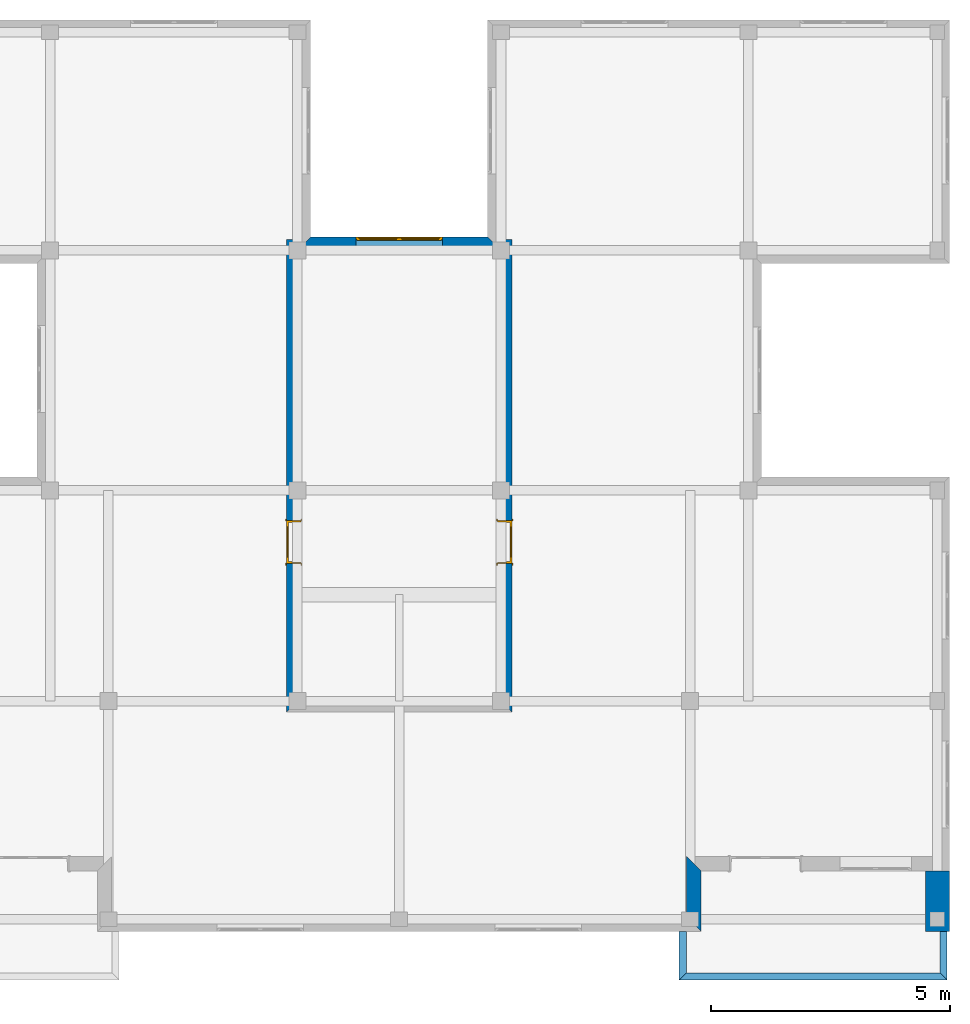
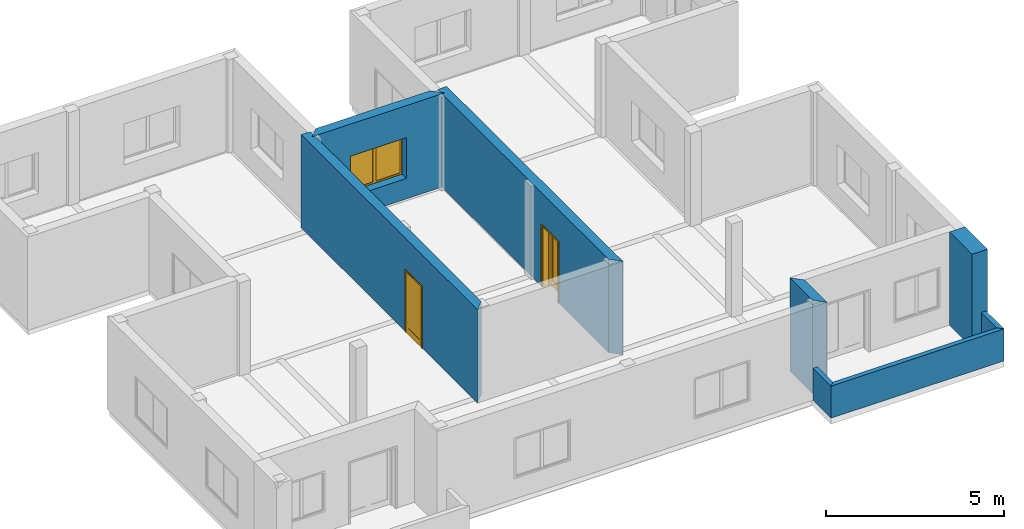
# One storey, part 4 of 6: 8 walls, 2 doors, 1 window, 3 openings.
"""IFC2X3 building model written with IfcOpenShell, lengths in millimetres."""

from ifc_helpers import new_model, entity, si_unit, converted_unit, direction, frame, origin_with_axes, origin_2d_with_axis, place, context, subcontext, project, spatial, polyline, rectangle, outline, extrude, faceted_brep, source, transform, mapped, material, layer, layer_set, layer_usage, type_object, element, fill, save


model = new_model("IFC2X3")

# Units and contexts
model_context = context("Model", 3, precision=1e-05, world=origin_with_axes(), true_north=direction((0.0, 1.0)))
body_context = subcontext(model_context, "Body", "Model", "MODEL_VIEW")
ifc_project = project(units=[si_unit("LENGTHUNIT", "METRE", prefix="MILLI"), si_unit("AREAUNIT", "SQUARE_METRE"), si_unit("VOLUMEUNIT", "CUBIC_METRE"), converted_unit("PLANEANGLEUNIT", "DEGREE", entity("IfcPlaneAngleMeasure", 0.017453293), si_unit("PLANEANGLEUNIT", "RADIAN"), dimensions=[0, 0, 0, 0, 0, 0, 0]), si_unit("SOLIDANGLEUNIT", "STERADIAN"), si_unit("MASSUNIT", "GRAM"), si_unit("TIMEUNIT", "SECOND"), si_unit("THERMODYNAMICTEMPERATUREUNIT", "DEGREE_CELSIUS"), si_unit("LUMINOUSINTENSITYUNIT", "LUMEN")], contexts=[model_context])

# Site, building, storey
site_placement = place(None, origin_with_axes())
site = spatial("IfcSite", under=ifc_project, at=site_placement, Name="Sitio", CompositionType="ELEMENT")
building_placement = place(site_placement, origin_with_axes())
building = spatial("IfcBuilding", under=site, at=building_placement, Name="Ejemplo_StruBIM", CompositionType="ELEMENT")
storey_placement = place(building_placement, frame((0.0, 0.0, 6400.8), z_axis=(0.0, 0.0, 1.0), x_axis=(1.0, 0.0, 0.0)))
storey = spatial("IfcBuildingStorey", under=building, at=storey_placement, Name="Second floor", CompositionType="ELEMENT", Elevation=6400.8)

# Wall, opening, door
ifc_material_1 = material(Name="Bloque mampostería")
ifc_layer_1 = layer(ifc_material_1, 300.0, ventilated="UNKNOWN")
ifc_layer_set_1 = layer_set([ifc_layer_1], Name="Bloque mampostería 300")
ifc_layer_usage_1 = layer_usage(ifc_layer_set_1, "AXIS2", "NEGATIVE", 0.0)
wall_type_1 = type_object("IfcWallType", Name="Bloque mampostería 11 3/4\"", PredefinedType="NOTDEFINED")
wall_1_placement = place(storey_placement, frame((8915.4, 4343.4, 0.0), z_axis=(0.0, 0.0, 1.0), x_axis=(0.0, 1.0, 0.0)))
wall_1 = element("IfcWallStandardCase", 1, at=wall_1_placement, inside=storey, type_object=wall_type_1, material=ifc_layer_usage_1, Name="Muro-009", context=body_context, shape_type="SweptSolid", body=[
    extrude(outline(polyline([(300.0, -300.0), (9906.0, -300.0), (9906.0, 0.0), (0.0, 0.0), (300.0, -300.0)])), origin_with_axes(), (0.0, 0.0, 1.0), 3200.4),
])
opening_1_placement = place(wall_1_placement, frame((3563.2, 0.0, 0.0), z_axis=(0.0, 0.0, 1.0), x_axis=(1.0, 0.0, 0.0)))
opening_1 = element("IfcOpeningElement", 2, at=opening_1_placement, cuts=wall_1, Name="P01", context=body_context, shape_type="SweptSolid", body=[
    extrude(rectangle(XDim=900.0, YDim=2100.0, at=origin_2d_with_axis()), frame((0.0, -300.0, 1050.0), z_axis=(0.0, 1.0, 0.0), x_axis=(1.0, 0.0, 0.0)), (0.0, 0.0, 1.0), 300.0),
    extrude(rectangle(XDim=974.0, YDim=2137.0, at=origin_2d_with_axis()), frame((0.0, -300.0, 1068.5), z_axis=(0.0, 1.0, 0.0), x_axis=(1.0, 0.0, 0.0)), (0.0, 0.0, -1.0), 300.0),
    extrude(rectangle(XDim=974.0, YDim=2137.0, at=origin_2d_with_axis()), frame((0.0, 0.0, 1068.5), z_axis=(0.0, -1.0, 0.0), x_axis=(1.0, 0.0, 0.0)), (0.0, 0.0, -1.0), 300.0),
])
ifc_material_2 = material(Name="Fondo")
door_style_1 = type_object("IfcDoorStyle", Name="Puerta 16", ConstructionType="NOTDEFINED", OperationType="SINGLE_SWING_RIGHT", ParameterTakesPrecedence=False, Sizeable=False)
shared_shape_1 = source(origin_with_axes(), body_context, "Body", "Brep", [
    faceted_brep([(-450.0, -115.0, 0.0), (-425.0, -115.0, 0.0), (-425.0, -300.0, 0.0), (-450.0, -300.0, 0.0), (-450.0, -115.0, 2100.0), (-425.0, -115.0, 2075.0), (-425.0, -300.0, 2075.0), (-450.0, -300.0, 2100.0)], [[[0, 1, 2, 3]], [[0, 4, 5, 1]], [[1, 5, 6, 2]], [[3, 2, 6, 7]], [[4, 0, 3, 7]], [[5, 4, 7, 6]]]),
    faceted_brep([(450.0, -115.0, 2100.0), (425.0, -115.0, 2075.0), (425.0, -300.0, 2075.0), (450.0, -300.0, 2100.0), (450.0, -115.0, 0.0), (425.0, -115.0, 0.0), (425.0, -300.0, 0.0), (450.0, -300.0, 0.0)], [[[0, 1, 2, 3]], [[0, 4, 5, 1]], [[1, 5, 6, 2]], [[3, 2, 6, 7]], [[4, 0, 3, 7]], [[5, 4, 7, 6]]]),
    faceted_brep([(-425.0, -115.0, 2075.0), (425.0, -115.0, 2075.0), (425.0, -300.0, 2075.0), (-425.0, -300.0, 2075.0), (-450.0, -115.0, 2100.0), (450.0, -115.0, 2100.0), (450.0, -300.0, 2100.0), (-450.0, -300.0, 2100.0)], [[[0, 1, 2, 3]], [[0, 4, 5, 1]], [[1, 5, 6, 2]], [[3, 2, 6, 7]], [[4, 0, 3, 7]], [[5, 4, 7, 6]]]),
    faceted_brep([(-487.0, -319.0, 0.0), (-487.0, -300.0, 0.0), (-437.0, -300.0, 0.0), (-437.0, -319.0, 0.0), (-487.0, -319.0, 2137.0), (-487.0, -300.0, 2137.0), (-437.0, -300.0, 2087.0), (-437.0, -319.0, 2087.0)], [[[0, 1, 2, 3]], [[4, 5, 1, 0]], [[1, 5, 6, 2]], [[3, 2, 6, 7]], [[0, 3, 7, 4]], [[7, 6, 5, 4]]]),
    faceted_brep([(487.0, -319.0, 2137.0), (487.0, -300.0, 2137.0), (437.0, -300.0, 2087.0), (437.0, -319.0, 2087.0), (487.0, -319.0, 0.0), (487.0, -300.0, 0.0), (437.0, -300.0, 0.0), (437.0, -319.0, 0.0)], [[[0, 1, 2, 3]], [[4, 5, 1, 0]], [[1, 5, 6, 2]], [[3, 2, 6, 7]], [[0, 3, 7, 4]], [[7, 6, 5, 4]]]),
    faceted_brep([(-487.0, -319.0, 2137.0), (-487.0, -300.0, 2137.0), (-437.0, -300.0, 2087.0), (-437.0, -319.0, 2087.0), (487.0, -319.0, 2137.0), (487.0, -300.0, 2137.0), (437.0, -300.0, 2087.0), (437.0, -319.0, 2087.0)], [[[0, 1, 2, 3]], [[4, 5, 1, 0]], [[1, 5, 6, 2]], [[3, 2, 6, 7]], [[0, 3, 7, 4]], [[7, 6, 5, 4]]]),
    faceted_brep([(-487.0, 19.0, 0.0), (-437.0, 19.0, 0.0), (-437.0, 0.0, 0.0), (-487.0, 0.0, 0.0), (-487.0, 19.0, 2137.0), (-437.0, 19.0, 2087.0), (-437.0, 0.0, 2087.0), (-487.0, 0.0, 2137.0)], [[[0, 1, 2, 3]], [[0, 4, 5, 1]], [[1, 5, 6, 2]], [[3, 2, 6, 7]], [[4, 0, 3, 7]], [[5, 4, 7, 6]]]),
    faceted_brep([(487.0, 19.0, 2137.0), (437.0, 19.0, 2087.0), (437.0, 0.0, 2087.0), (487.0, 0.0, 2137.0), (487.0, 19.0, 0.0), (437.0, 19.0, 0.0), (437.0, 0.0, 0.0), (487.0, 0.0, 0.0)], [[[0, 1, 2, 3]], [[0, 4, 5, 1]], [[1, 5, 6, 2]], [[3, 2, 6, 7]], [[4, 0, 3, 7]], [[5, 4, 7, 6]]]),
    faceted_brep([(-487.0, 19.0, 2137.0), (-437.0, 19.0, 2087.0), (-437.0, 0.0, 2087.0), (-487.0, 0.0, 2137.0), (487.0, 19.0, 2137.0), (437.0, 19.0, 2087.0), (437.0, 0.0, 2087.0), (487.0, 0.0, 2137.0)], [[[0, 1, 2, 3]], [[0, 4, 5, 1]], [[1, 5, 6, 2]], [[3, 2, 6, 7]], [[4, 0, 3, 7]], [[5, 4, 7, 6]]]),
    faceted_brep([(-410.0, -40.0, 0.0), (-410.0, -40.0, 2060.0), (-410.0, -115.0, 2060.0), (-410.0, -115.0, 0.0), (-422.0, -40.0, 2060.0), (-422.0, -40.0, 0.0), (-422.0, 2.2351741e-07, 2060.0), (-450.0, 2.2351741e-07, 2060.0), (-450.0, -115.0, 2060.0), (-450.0, -115.0, 0.0), (-450.0, 2.2351741e-07, -3.8951635e-07), (-422.0, 2.2351741e-07, 0.0)], [[[0, 1, 2, 3]], [[4, 1, 0, 5]], [[4, 6, 7, 8, 2, 1]], [[8, 9, 3, 2]], [[5, 0, 3, 9, 10, 11]], [[6, 4, 5, 11]], [[6, 11, 10, 7]], [[9, 8, 7, 10]]]),
    faceted_brep([(422.0, -40.0, 2060.0), (410.0, -40.0, 2060.0), (410.0, -115.0, 2060.0), (450.0, -115.0, 2060.0), (450.0, 2.2351741e-07, 2060.0), (422.0, 2.2351741e-07, 2060.0), (422.0, -40.0, 0.0), (410.0, -40.0, 0.0), (410.0, -115.0, 0.0), (450.0, -115.0, 0.0), (450.0, 2.2351741e-07, -3.8951635e-07), (422.0, 2.2351741e-07, 0.0)], [[[0, 1, 2, 3, 4, 5]], [[1, 0, 6, 7]], [[1, 7, 8, 2]], [[8, 9, 3, 2]], [[3, 9, 10, 4]], [[11, 5, 4, 10]], [[0, 5, 11, 6]], [[6, 11, 10, 9, 8, 7]]]),
    faceted_brep([(-422.0, 2.2351741e-07, 2072.0), (-422.0, 2.2351741e-07, 2060.0), (-450.0, 2.2351741e-07, 2060.0), (-450.0, 2.2351741e-07, 2100.0), (450.0, 2.2351741e-07, 2100.0), (450.0, 2.2351741e-07, 2060.0), (422.0, 2.2351741e-07, 2060.0), (422.0, 2.2351741e-07, 2072.0), (-422.0, -40.0, 2072.0), (-422.0, -40.0, 2060.0), (-410.0, -40.0, 2060.0), (-410.0, -115.0, 2060.0), (-450.0, -115.0, 2060.0), (-450.0, -115.0, 2100.0), (450.0, -115.0, 2100.0), (450.0, -115.0, 2060.0), (422.0, -40.0, 2060.0), (410.0, -115.0, 2060.0), (410.0, -40.0, 2060.0), (422.0, -40.0, 2072.0)], [[[0, 1, 2, 3, 4, 5, 6, 7]], [[1, 0, 8, 9]], [[9, 10, 11, 12, 2, 1]], [[12, 13, 3, 2]], [[13, 14, 4, 3]], [[14, 15, 5, 4]], [[16, 6, 5, 15, 17, 18]], [[7, 6, 16, 19]], [[0, 7, 19, 8]], [[16, 18, 10, 9, 8, 19]], [[10, 18, 17, 11]], [[14, 13, 12, 11, 17, 15]]]),
    faceted_brep([(422.0, 0.0, 200.0), (422.0, -40.0, 200.0), (322.0, -40.0, 200.0), (322.0, 0.0, 200.0), (422.0, 0.0, 1972.0), (422.0, -40.0, 1972.0), (322.0, -40.0, 1972.0), (322.0, 0.0, 1972.0)], [[[0, 1, 2, 3]], [[4, 5, 1, 0]], [[1, 5, 6, 2]], [[3, 2, 6, 7]], [[0, 3, 7, 4]], [[7, 6, 5, 4]]]),
    faceted_brep([(-422.0, 0.0, 200.0), (-422.0, -40.0, 200.0), (-422.0, -40.0, 1972.0), (-422.0, 0.0, 1972.0), (-322.0, 0.0, 200.0), (-322.0, -40.0, 200.0), (-322.0, -40.0, 1972.0), (-322.0, 0.0, 1972.0)], [[[0, 1, 2, 3]], [[4, 5, 1, 0]], [[1, 5, 6, 2]], [[3, 2, 6, 7]], [[0, 3, 7, 4]], [[7, 6, 5, 4]]]),
    faceted_brep([(422.0, 0.0, 0.0), (422.0, -40.0, 0.0), (-422.0, -40.0, 0.0), (-422.0, 0.0, 0.0), (422.0, 0.0, 200.0), (422.0, -40.0, 200.0), (322.0, -40.0, 200.0), (-322.0, -40.0, 200.0), (-422.0, -40.0, 200.0), (-422.0, 0.0, 200.0), (-322.0, 0.0, 200.0), (322.0, 0.0, 200.0)], [[[0, 1, 2, 3]], [[4, 5, 1, 0]], [[1, 5, 6, 7, 8, 2]], [[3, 2, 8, 9]], [[0, 3, 9, 10, 11, 4]], [[11, 6, 5, 4]], [[10, 7, 6, 11]], [[9, 8, 7, 10]]]),
    faceted_brep([(422.0, 0.0, 2072.0), (422.0, -40.0, 2072.0), (422.0, -40.0, 1972.0), (422.0, 0.0, 1972.0), (-422.0, 0.0, 2072.0), (-422.0, -40.0, 2072.0), (-422.0, -40.0, 1972.0), (-322.0, -40.0, 1972.0), (322.0, -40.0, 1972.0), (322.0, 0.0, 1972.0), (-322.0, 0.0, 1972.0), (-422.0, 0.0, 1972.0)], [[[0, 1, 2, 3]], [[4, 5, 1, 0]], [[1, 5, 6, 7, 8, 2]], [[3, 2, 8, 9]], [[0, 3, 9, 10, 11, 4]], [[11, 6, 5, 4]], [[10, 7, 6, 11]], [[9, 8, 7, 10]]]),
    faceted_brep([(322.0, -14.0, 200.0), (322.0, -26.0, 200.0), (-322.0, -26.0, 200.0), (-322.0, -14.0, 200.0), (322.0, -14.0, 1972.0), (322.0, -26.0, 1972.0), (-322.0, -26.0, 1972.0), (-322.0, -14.0, 1972.0)], [[[0, 1, 2, 3]], [[4, 5, 1, 0]], [[1, 5, 6, 2]], [[3, 2, 6, 7]], [[0, 3, 7, 4]], [[7, 6, 5, 4]]]),
])
door_1_placement = place(opening_1_placement, frame((-450.0, 0.0, 0.0), z_axis=(0.0, 0.0, 1.0), x_axis=(1.0, 0.0, 0.0)))
door_1 = element("IfcDoor", 3, at=door_1_placement, inside=storey, type_object=door_style_1, material=ifc_material_2, Name="P01", OverallHeight=2100.0, OverallWidth=900.0, context=body_context, shape_type="MappedRepresentation", body=[
    mapped(shared_shape_1, transform((450.0, 0.0, 0.0))),
])
fill(opening_1, door_1)

ifc_layer_usage_2 = layer_usage(ifc_layer_set_1, "AXIS2", "POSITIVE", 0.0)
wall_2_placement = place(storey_placement, frame((13639.8, 4343.4, 0.0), z_axis=(0.0, 0.0, 1.0), x_axis=(0.0, 1.0, 0.0)))
wall_2 = element("IfcWallStandardCase", 4, at=wall_2_placement, inside=storey, type_object=wall_type_1, material=ifc_layer_usage_2, Name="Muro-009", context=body_context, shape_type="SweptSolid", body=[
    extrude(outline(polyline([(0.0, 0.0), (9906.0, 0.0), (9906.0, 300.0), (300.0, 300.0), (0.0, 0.0)])), origin_with_axes(), (0.0, 0.0, 1.0), 3200.4),
])
opening_2_placement = place(wall_2_placement, frame((3563.2, 0.0, 0.0), z_axis=(0.0, 0.0, 1.0), x_axis=(1.0, 0.0, 0.0)))
opening_2 = element("IfcOpeningElement", 5, at=opening_2_placement, cuts=wall_2, Name="P02", context=body_context, shape_type="SweptSolid", body=[
    extrude(rectangle(XDim=900.0, YDim=2100.0, at=origin_2d_with_axis()), frame((0.0, 300.0, 1050.0), z_axis=(0.0, 1.0, 0.0), x_axis=(1.0, 0.0, 0.0)), (0.0, 0.0, -1.0), 300.0),
    extrude(rectangle(XDim=974.0, YDim=2137.0, at=origin_2d_with_axis()), frame((0.0, 300.0, 1068.5), z_axis=(0.0, 1.0, 0.0), x_axis=(1.0, 0.0, 0.0)), (0.0, 0.0, 1.0), 300.0),
    extrude(rectangle(XDim=974.0, YDim=2137.0, at=origin_2d_with_axis()), frame((0.0, 0.0, 1068.5), z_axis=(0.0, -1.0, 0.0), x_axis=(1.0, 0.0, 0.0)), (0.0, 0.0, 1.0), 300.0),
])
door_style_2 = type_object("IfcDoorStyle", Name="Puerta 16", ConstructionType="NOTDEFINED", OperationType="SINGLE_SWING_LEFT", ParameterTakesPrecedence=False, Sizeable=False)
shared_shape_2 = source(origin_with_axes(), body_context, "Body", "Brep", [
    faceted_brep([(450.0, -115.0, 0.0), (450.0, -300.0, 0.0), (425.0, -300.0, 0.0), (425.0, -115.0, 0.0), (450.0, -115.0, 2100.0), (450.0, -300.0, 2100.0), (425.0, -300.0, 2075.0), (425.0, -115.0, 2075.0)], [[[0, 1, 2, 3]], [[4, 5, 1, 0]], [[1, 5, 6, 2]], [[3, 2, 6, 7]], [[0, 3, 7, 4]], [[7, 6, 5, 4]]]),
    faceted_brep([(-450.0, -115.0, 2100.0), (-450.0, -300.0, 2100.0), (-425.0, -300.0, 2075.0), (-425.0, -115.0, 2075.0), (-450.0, -115.0, 0.0), (-450.0, -300.0, 0.0), (-425.0, -300.0, 0.0), (-425.0, -115.0, 0.0)], [[[0, 1, 2, 3]], [[4, 5, 1, 0]], [[1, 5, 6, 2]], [[3, 2, 6, 7]], [[0, 3, 7, 4]], [[7, 6, 5, 4]]]),
    faceted_brep([(425.0, -115.0, 2075.0), (425.0, -300.0, 2075.0), (-425.0, -300.0, 2075.0), (-425.0, -115.0, 2075.0), (450.0, -115.0, 2100.0), (450.0, -300.0, 2100.0), (-450.0, -300.0, 2100.0), (-450.0, -115.0, 2100.0)], [[[0, 1, 2, 3]], [[4, 5, 1, 0]], [[1, 5, 6, 2]], [[3, 2, 6, 7]], [[0, 3, 7, 4]], [[7, 6, 5, 4]]]),
    faceted_brep([(487.0, -319.0, 0.0), (437.0, -319.0, 0.0), (437.0, -300.0, 0.0), (487.0, -300.0, 0.0), (487.0, -319.0, 2137.0), (437.0, -319.0, 2087.0), (437.0, -300.0, 2087.0), (487.0, -300.0, 2137.0)], [[[0, 1, 2, 3]], [[0, 4, 5, 1]], [[1, 5, 6, 2]], [[3, 2, 6, 7]], [[4, 0, 3, 7]], [[5, 4, 7, 6]]]),
    faceted_brep([(-487.0, -319.0, 2137.0), (-437.0, -319.0, 2087.0), (-437.0, -300.0, 2087.0), (-487.0, -300.0, 2137.0), (-487.0, -319.0, 0.0), (-437.0, -319.0, 0.0), (-437.0, -300.0, 0.0), (-487.0, -300.0, 0.0)], [[[0, 1, 2, 3]], [[0, 4, 5, 1]], [[1, 5, 6, 2]], [[3, 2, 6, 7]], [[4, 0, 3, 7]], [[5, 4, 7, 6]]]),
    faceted_brep([(487.0, -319.0, 2137.0), (437.0, -319.0, 2087.0), (437.0, -300.0, 2087.0), (487.0, -300.0, 2137.0), (-487.0, -319.0, 2137.0), (-437.0, -319.0, 2087.0), (-437.0, -300.0, 2087.0), (-487.0, -300.0, 2137.0)], [[[0, 1, 2, 3]], [[0, 4, 5, 1]], [[1, 5, 6, 2]], [[3, 2, 6, 7]], [[4, 0, 3, 7]], [[5, 4, 7, 6]]]),
    faceted_brep([(487.0, 19.0, 0.0), (487.0, 0.0, 0.0), (437.0, 0.0, 0.0), (437.0, 19.0, 0.0), (487.0, 19.0, 2137.0), (487.0, 0.0, 2137.0), (437.0, 0.0, 2087.0), (437.0, 19.0, 2087.0)], [[[0, 1, 2, 3]], [[4, 5, 1, 0]], [[1, 5, 6, 2]], [[3, 2, 6, 7]], [[0, 3, 7, 4]], [[7, 6, 5, 4]]]),
    faceted_brep([(-487.0, 19.0, 2137.0), (-487.0, 0.0, 2137.0), (-437.0, 0.0, 2087.0), (-437.0, 19.0, 2087.0), (-487.0, 19.0, 0.0), (-487.0, 0.0, 0.0), (-437.0, 0.0, 0.0), (-437.0, 19.0, 0.0)], [[[0, 1, 2, 3]], [[4, 5, 1, 0]], [[1, 5, 6, 2]], [[3, 2, 6, 7]], [[0, 3, 7, 4]], [[7, 6, 5, 4]]]),
    faceted_brep([(487.0, 19.0, 2137.0), (487.0, 0.0, 2137.0), (437.0, 0.0, 2087.0), (437.0, 19.0, 2087.0), (-487.0, 19.0, 2137.0), (-487.0, 0.0, 2137.0), (-437.0, 0.0, 2087.0), (-437.0, 19.0, 2087.0)], [[[0, 1, 2, 3]], [[4, 5, 1, 0]], [[1, 5, 6, 2]], [[3, 2, 6, 7]], [[0, 3, 7, 4]], [[7, 6, 5, 4]]]),
    faceted_brep([(410.0, -40.0, 0.0), (410.0, -115.0, 0.0), (410.0, -115.0, 2060.0), (410.0, -40.0, 2060.0), (422.0, -40.0, 0.0), (422.0, 2.2351741e-07, 0.0), (450.0, 2.2351741e-07, -3.8951635e-07), (450.0, -115.0, 0.0), (450.0, -115.0, 2060.0), (422.0, -40.0, 2060.0), (450.0, 2.2351741e-07, 2060.0), (422.0, 2.2351741e-07, 2060.0)], [[[0, 1, 2, 3]], [[4, 5, 6, 7, 1, 0]], [[8, 2, 1, 7]], [[9, 3, 2, 8, 10, 11]], [[9, 4, 0, 3]], [[11, 5, 4, 9]], [[11, 10, 6, 5]], [[7, 6, 10, 8]]]),
    faceted_brep([(-422.0, -40.0, 2060.0), (-422.0, 2.2351741e-07, 2060.0), (-450.0, 2.2351741e-07, 2060.0), (-450.0, -115.0, 2060.0), (-410.0, -115.0, 2060.0), (-410.0, -40.0, 2060.0), (-422.0, -40.0, 0.0), (-422.0, 2.2351741e-07, 0.0), (-450.0, 2.2351741e-07, -3.8951635e-07), (-450.0, -115.0, 0.0), (-410.0, -115.0, 0.0), (-410.0, -40.0, 0.0)], [[[0, 1, 2, 3, 4, 5]], [[0, 6, 7, 1]], [[7, 8, 2, 1]], [[3, 2, 8, 9]], [[10, 4, 3, 9]], [[5, 4, 10, 11]], [[5, 11, 6, 0]], [[6, 11, 10, 9, 8, 7]]]),
    faceted_brep([(422.0, 2.2351741e-07, 2072.0), (-422.0, 2.2351741e-07, 2072.0), (-422.0, 2.2351741e-07, 2060.0), (-450.0, 2.2351741e-07, 2060.0), (-450.0, 2.2351741e-07, 2100.0), (450.0, 2.2351741e-07, 2100.0), (450.0, 2.2351741e-07, 2060.0), (422.0, 2.2351741e-07, 2060.0), (422.0, -40.0, 2072.0), (-422.0, -40.0, 2072.0), (-422.0, -40.0, 2060.0), (-410.0, -40.0, 2060.0), (-410.0, -115.0, 2060.0), (-450.0, -115.0, 2060.0), (-450.0, -115.0, 2100.0), (450.0, -115.0, 2100.0), (450.0, -115.0, 2060.0), (422.0, -40.0, 2060.0), (410.0, -115.0, 2060.0), (410.0, -40.0, 2060.0)], [[[0, 1, 2, 3, 4, 5, 6, 7]], [[0, 8, 9, 1]], [[1, 9, 10, 2]], [[10, 11, 12, 13, 3, 2]], [[14, 4, 3, 13]], [[15, 5, 4, 14]], [[16, 6, 5, 15]], [[17, 7, 6, 16, 18, 19]], [[7, 17, 8, 0]], [[10, 9, 8, 17, 19, 11]], [[19, 18, 12, 11]], [[14, 13, 12, 18, 16, 15]]]),
    faceted_brep([(-422.0, 0.0, 200.0), (-322.0, 0.0, 200.0), (-322.0, -40.0, 200.0), (-422.0, -40.0, 200.0), (-422.0, 0.0, 1972.0), (-322.0, 0.0, 1972.0), (-322.0, -40.0, 1972.0), (-422.0, -40.0, 1972.0)], [[[0, 1, 2, 3]], [[0, 4, 5, 1]], [[1, 5, 6, 2]], [[3, 2, 6, 7]], [[4, 0, 3, 7]], [[5, 4, 7, 6]]]),
    faceted_brep([(422.0, 0.0, 200.0), (422.0, 0.0, 1972.0), (422.0, -40.0, 1972.0), (422.0, -40.0, 200.0), (322.0, 0.0, 200.0), (322.0, 0.0, 1972.0), (322.0, -40.0, 1972.0), (322.0, -40.0, 200.0)], [[[0, 1, 2, 3]], [[0, 4, 5, 1]], [[1, 5, 6, 2]], [[3, 2, 6, 7]], [[4, 0, 3, 7]], [[5, 4, 7, 6]]]),
    faceted_brep([(-422.0, 0.0, 0.0), (422.0, 0.0, 0.0), (422.0, -40.0, 0.0), (-422.0, -40.0, 0.0), (-422.0, 0.0, 200.0), (-322.0, 0.0, 200.0), (322.0, 0.0, 200.0), (422.0, 0.0, 200.0), (422.0, -40.0, 200.0), (322.0, -40.0, 200.0), (-322.0, -40.0, 200.0), (-422.0, -40.0, 200.0)], [[[0, 1, 2, 3]], [[0, 4, 5, 6, 7, 1]], [[1, 7, 8, 2]], [[3, 2, 8, 9, 10, 11]], [[4, 0, 3, 11]], [[5, 4, 11, 10]], [[6, 5, 10, 9]], [[7, 6, 9, 8]]]),
    faceted_brep([(-422.0, 0.0, 2072.0), (-422.0, 0.0, 1972.0), (-422.0, -40.0, 1972.0), (-422.0, -40.0, 2072.0), (422.0, 0.0, 2072.0), (422.0, 0.0, 1972.0), (322.0, 0.0, 1972.0), (-322.0, 0.0, 1972.0), (-322.0, -40.0, 1972.0), (322.0, -40.0, 1972.0), (422.0, -40.0, 1972.0), (422.0, -40.0, 2072.0)], [[[0, 1, 2, 3]], [[0, 4, 5, 6, 7, 1]], [[1, 7, 8, 2]], [[3, 2, 8, 9, 10, 11]], [[4, 0, 3, 11]], [[5, 4, 11, 10]], [[6, 5, 10, 9]], [[7, 6, 9, 8]]]),
    faceted_brep([(-322.0, -14.0, 200.0), (322.0, -14.0, 200.0), (322.0, -26.0, 200.0), (-322.0, -26.0, 200.0), (-322.0, -14.0, 1972.0), (322.0, -14.0, 1972.0), (322.0, -26.0, 1972.0), (-322.0, -26.0, 1972.0)], [[[0, 1, 2, 3]], [[0, 4, 5, 1]], [[1, 5, 6, 2]], [[3, 2, 6, 7]], [[4, 0, 3, 7]], [[5, 4, 7, 6]]]),
])
door_2_placement = place(opening_2_placement, frame((450.0, 0.0, 0.0), z_axis=(0.0, 0.0, 1.0), x_axis=(-1.0, 0.0, 0.0)))
door_2 = element("IfcDoor", 6, at=door_2_placement, inside=storey, type_object=door_style_2, material=ifc_material_2, Name="P02", OverallHeight=2100.0, OverallWidth=900.0, context=body_context, shape_type="MappedRepresentation", body=[
    mapped(shared_shape_2, transform((450.0, 0.0, 0.0))),
])
fill(opening_2, door_2)

# Wall
ifc_layer_usage_3 = layer_usage(ifc_layer_set_1, "AXIS2", "POSITIVE", 0.0)
wall_3_placement = place(storey_placement, frame((17602.2, -254.0, 0.0), z_axis=(0.0, 0.0, 1.0), x_axis=(0.0, 1.0, 0.0)))
element("IfcWallStandardCase", 7, at=wall_3_placement, inside=storey, type_object=wall_type_1, material=ifc_layer_usage_3, Name="Muro-016", context=body_context, shape_type="SweptSolid", body=[
    extrude(outline(polyline([(0.0, 0.0), (1270.0, 0.0), (1570.0, 300.0), (300.0, 300.0), (0.0, 0.0)])), origin_with_axes(), (0.0, 0.0, 1.0), 3200.4),
])

# Wall, opening, window
ifc_layer_usage_4 = layer_usage(ifc_layer_set_1, "AXIS2", "POSITIVE", 0.0)
wall_4_placement = place(storey_placement, frame((13131.8, 14300.2, 0.0), z_axis=(0.0, 0.0, 1.0), x_axis=(-1.0, 0.0, 0.0)))
wall_4 = element("IfcWallStandardCase", 8, at=wall_4_placement, inside=storey, type_object=wall_type_1, material=ifc_layer_usage_4, Name="Muro-008", context=body_context, shape_type="SweptSolid", body=[
    extrude(outline(polyline([(0.0, 0.0), (3708.4, 0.0), (4008.4, 300.0), (-300.0, 300.0), (0.0, 0.0)])), origin_with_axes(), (0.0, 0.0, 1.0), 3200.4),
])
opening_3_placement = place(wall_4_placement, frame((1854.2, 0.0, 700.0), z_axis=(0.0, 0.0, 1.0), x_axis=(1.0, 0.0, 0.0)))
opening_3 = element("IfcOpeningElement", 9, at=opening_3_placement, cuts=wall_4, Name="V10", context=body_context, shape_type="SweptSolid", body=[
    extrude(rectangle(XDim=1820.0, YDim=1400.0, at=origin_2d_with_axis()), frame((0.0, 300.0, 700.0), z_axis=(0.0, -1.0, 0.0), x_axis=(1.0, 0.0, 0.0)), (0.0, 0.0, 1.0), 300.0),
])
window_style = type_object("IfcWindowStyle", Name="Ventana Doble Hoja 16", ConstructionType="NOTDEFINED", OperationType="DOUBLE_PANEL_HORIZONTAL", ParameterTakesPrecedence=False, Sizeable=False)
shared_shape_3 = source(origin_with_axes(), body_context, "Body", "Brep", [
    faceted_brep([(-885.0, -50.0, 1350.0), (-885.0, -25.0, 1350.0), (-860.0, -25.0, 1350.0), (-860.0, 0.0, 1350.0), (-910.0, 0.0, 1350.0), (-910.0, -50.0, 1350.0), (-885.0, -50.0, 50.0), (-885.0, -25.0, 50.0), (-860.0, -25.0, 50.0), (-860.0, 0.0, 50.0), (-910.0, 0.0, 50.0), (-910.0, -50.0, 50.0)], [[[0, 1, 2, 3, 4, 5]], [[1, 0, 6, 7]], [[8, 2, 1, 7]], [[2, 8, 9, 3]], [[4, 3, 9, 10]], [[5, 4, 10, 11]], [[6, 0, 5, 11]], [[7, 6, 11, 10, 9, 8]]]),
    faceted_brep([(860.0, -25.0, 1350.0), (885.0, -25.0, 1350.0), (885.0, -50.0, 1350.0), (910.0, -50.0, 1350.0), (910.0, 0.0, 1350.0), (860.0, 0.0, 1350.0), (860.0, -25.0, 50.0), (885.0, -25.0, 50.0), (885.0, -50.0, 50.0), (910.0, -50.0, 50.0), (910.0, 0.0, 50.0), (860.0, 0.0, 50.0)], [[[0, 1, 2, 3, 4, 5]], [[1, 0, 6, 7]], [[8, 2, 1, 7]], [[2, 8, 9, 3]], [[9, 10, 4, 3]], [[10, 11, 5, 4]], [[6, 0, 5, 11]], [[7, 6, 11, 10, 9, 8]]]),
    faceted_brep([(860.0, -25.0, 50.0), (885.0, -25.0, 50.0), (885.0, -50.0, 50.0), (910.0, -50.0, 50.0), (910.0, 0.0, 50.0), (860.0, 0.0, 50.0), (-860.0, -25.0, 50.0), (-885.0, -25.0, 50.0), (-885.0, -25.0, 25.0), (885.0, -25.0, 25.0), (885.0, -50.0, 25.0), (-885.0, -50.0, 25.0), (-885.0, -50.0, 50.0), (-910.0, -50.0, 50.0), (-910.0, -50.0, 0.0), (910.0, -50.0, 0.0), (910.0, 0.0, 0.0), (-910.0, 0.0, 50.0), (-860.0, 0.0, 50.0), (-910.0, 0.0, 0.0)], [[[0, 1, 2, 3, 4, 5]], [[1, 0, 6, 7, 8, 9]], [[10, 2, 1, 9]], [[11, 12, 13, 14, 15, 3, 2, 10]], [[15, 16, 4, 3]], [[17, 18, 5, 4, 16, 19]], [[6, 0, 5, 18]], [[7, 6, 18, 17, 13, 12]], [[7, 12, 11, 8]], [[11, 10, 9, 8]], [[13, 17, 19, 14]], [[14, 19, 16, 15]]]),
    faceted_brep([(-885.0, -50.0, 1350.0), (-885.0, -50.0, 1375.0), (885.0, -50.0, 1375.0), (885.0, -50.0, 1350.0), (910.0, -50.0, 1350.0), (910.0, -50.0, 1400.0), (-910.0, -50.0, 1400.0), (-910.0, -50.0, 1350.0), (-885.0, -25.0, 1350.0), (-885.0, -25.0, 1375.0), (885.0, -25.0, 1375.0), (885.0, -25.0, 1350.0), (860.0, -25.0, 1350.0), (860.0, 0.0, 1350.0), (910.0, 0.0, 1350.0), (910.0, 0.0, 1400.0), (-910.0, 0.0, 1400.0), (-910.0, 0.0, 1350.0), (-860.0, 0.0, 1350.0), (-860.0, -25.0, 1350.0)], [[[0, 1, 2, 3, 4, 5, 6, 7]], [[1, 0, 8, 9]], [[2, 1, 9, 10]], [[3, 2, 10, 11]], [[11, 12, 13, 14, 4, 3]], [[4, 14, 15, 5]], [[5, 15, 16, 6]], [[6, 16, 17, 7]], [[8, 0, 7, 17, 18, 19]], [[12, 11, 10, 9, 8, 19]], [[12, 19, 18, 13]], [[14, 13, 18, 17, 16, 15]]]),
    faceted_brep([(-835.0, -25.0, 1325.0), (-885.0, -25.0, 1325.0), (-885.0, -75.0, 1325.0), (-835.0, -75.0, 1325.0), (-835.0, -25.0, 75.0), (-885.0, -25.0, 75.0), (-885.0, -75.0, 75.0), (-835.0, -75.0, 75.0)], [[[0, 1, 2, 3]], [[0, 4, 5, 1]], [[1, 5, 6, 2]], [[3, 2, 6, 7]], [[4, 0, 3, 7]], [[5, 4, 7, 6]]]),
    faceted_brep([(-50.0, -25.0, 75.0), (0.0, -25.0, 75.0), (0.0, -75.0, 75.0), (-50.0, -75.0, 75.0), (-50.0, -25.0, 1325.0), (0.0, -25.0, 1325.0), (0.0, -75.0, 1325.0), (-50.0, -75.0, 1325.0)], [[[0, 1, 2, 3]], [[0, 4, 5, 1]], [[1, 5, 6, 2]], [[3, 2, 6, 7]], [[4, 0, 3, 7]], [[5, 4, 7, 6]]]),
    faceted_brep([(0.0, -25.0, 25.0), (0.0, -25.0, 75.0), (0.0, -75.0, 75.0), (0.0, -75.0, 25.0), (-885.0, -25.0, 25.0), (-885.0, -25.0, 75.0), (-835.0, -25.0, 75.0), (-50.0, -25.0, 75.0), (-50.0, -75.0, 75.0), (-835.0, -75.0, 75.0), (-885.0, -75.0, 75.0), (-885.0, -75.0, 25.0)], [[[0, 1, 2, 3]], [[0, 4, 5, 6, 7, 1]], [[1, 7, 8, 2]], [[3, 2, 8, 9, 10, 11]], [[4, 0, 3, 11]], [[5, 4, 11, 10]], [[6, 5, 10, 9]], [[7, 6, 9, 8]]]),
    faceted_brep([(-885.0, -25.0, 1375.0), (-885.0, -25.0, 1325.0), (-885.0, -75.0, 1325.0), (-885.0, -75.0, 1375.0), (0.0, -25.0, 1375.0), (0.0, -25.0, 1325.0), (-50.0, -25.0, 1325.0), (-835.0, -25.0, 1325.0), (-835.0, -75.0, 1325.0), (-50.0, -75.0, 1325.0), (0.0, -75.0, 1325.0), (0.0, -75.0, 1375.0)], [[[0, 1, 2, 3]], [[0, 4, 5, 6, 7, 1]], [[1, 7, 8, 2]], [[3, 2, 8, 9, 10, 11]], [[4, 0, 3, 11]], [[5, 4, 11, 10]], [[6, 5, 10, 9]], [[7, 6, 9, 8]]]),
    faceted_brep([(-835.0, -40.0, 75.0), (-50.0, -40.0, 75.0), (-50.0, -60.0, 75.0), (-835.0, -60.0, 75.0), (-835.0, -40.0, 1325.0), (-50.0, -40.0, 1325.0), (-50.0, -60.0, 1325.0), (-835.0, -60.0, 1325.0)], [[[0, 1, 2, 3]], [[0, 4, 5, 1]], [[1, 5, 6, 2]], [[3, 2, 6, 7]], [[4, 0, 3, 7]], [[5, 4, 7, 6]]]),
    faceted_brep([(50.0, -25.0, 1325.0), (0.0, -25.0, 1325.0), (0.0, -75.0, 1325.0), (50.0, -75.0, 1325.0), (50.0, -25.0, 75.0), (0.0, -25.0, 75.0), (0.0, -75.0, 75.0), (50.0, -75.0, 75.0)], [[[0, 1, 2, 3]], [[0, 4, 5, 1]], [[1, 5, 6, 2]], [[3, 2, 6, 7]], [[4, 0, 3, 7]], [[5, 4, 7, 6]]]),
    faceted_brep([(835.0, -25.0, 75.0), (885.0, -25.0, 75.0), (885.0, -75.0, 75.0), (835.0, -75.0, 75.0), (835.0, -25.0, 1325.0), (885.0, -25.0, 1325.0), (885.0, -75.0, 1325.0), (835.0, -75.0, 1325.0)], [[[0, 1, 2, 3]], [[0, 4, 5, 1]], [[1, 5, 6, 2]], [[3, 2, 6, 7]], [[4, 0, 3, 7]], [[5, 4, 7, 6]]]),
    faceted_brep([(885.0, -25.0, 25.0), (885.0, -25.0, 75.0), (885.0, -75.0, 75.0), (885.0, -75.0, 25.0), (0.0, -25.0, 25.0), (0.0, -25.0, 75.0), (50.0, -25.0, 75.0), (835.0, -25.0, 75.0), (835.0, -75.0, 75.0), (50.0, -75.0, 75.0), (0.0, -75.0, 75.0), (0.0, -75.0, 25.0)], [[[0, 1, 2, 3]], [[0, 4, 5, 6, 7, 1]], [[1, 7, 8, 2]], [[3, 2, 8, 9, 10, 11]], [[4, 0, 3, 11]], [[5, 4, 11, 10]], [[6, 5, 10, 9]], [[7, 6, 9, 8]]]),
    faceted_brep([(0.0, -25.0, 1375.0), (0.0, -25.0, 1325.0), (0.0, -75.0, 1325.0), (0.0, -75.0, 1375.0), (885.0, -25.0, 1375.0), (885.0, -25.0, 1325.0), (835.0, -25.0, 1325.0), (50.0, -25.0, 1325.0), (50.0, -75.0, 1325.0), (835.0, -75.0, 1325.0), (885.0, -75.0, 1325.0), (885.0, -75.0, 1375.0)], [[[0, 1, 2, 3]], [[0, 4, 5, 6, 7, 1]], [[1, 7, 8, 2]], [[3, 2, 8, 9, 10, 11]], [[4, 0, 3, 11]], [[5, 4, 11, 10]], [[6, 5, 10, 9]], [[7, 6, 9, 8]]]),
    faceted_brep([(50.0, -40.0, 75.0), (835.0, -40.0, 75.0), (835.0, -60.0, 75.0), (50.0, -60.0, 75.0), (50.0, -40.0, 1325.0), (835.0, -40.0, 1325.0), (835.0, -60.0, 1325.0), (50.0, -60.0, 1325.0)], [[[0, 1, 2, 3]], [[0, 4, 5, 1]], [[1, 5, 6, 2]], [[3, 2, 6, 7]], [[4, 0, 3, 7]], [[5, 4, 7, 6]]]),
])
window_placement = place(opening_3_placement, frame((910.0, 0.0, 0.0), z_axis=(0.0, 0.0, 1.0), x_axis=(-1.0, 0.0, 0.0)))
window = element("IfcWindow", 10, at=window_placement, inside=storey, type_object=window_style, material=ifc_material_2, Name="V10", OverallHeight=1400.0, OverallWidth=1820.0, context=body_context, shape_type="MappedRepresentation", body=[
    mapped(shared_shape_3, transform((910.0, 0.0, 0.0))),
])
fill(opening_3, window)

# Walls
ifc_layer_2 = layer(ifc_material_1, 150.0, ventilated="UNKNOWN")
ifc_layer_set_2 = layer_set([ifc_layer_2], Name="Bloque mampostería 150")
ifc_layer_usage_5 = layer_usage(ifc_layer_set_2, "AXIS2", "NEGATIVE", 0.0)
wall_type_2 = type_object("IfcWallType", Name="Bloque mampostería 6\"", PredefinedType="NOTDEFINED")
wall_5_placement = place(storey_placement, frame((22758.4, -254.0, 0.0), z_axis=(0.0, 0.0, 1.0), x_axis=(0.0, -1.0, 0.0)))
element("IfcWallStandardCase", 11, at=wall_5_placement, inside=storey, type_object=wall_type_2, material=ifc_layer_usage_5, Name="Muro-012", context=body_context, shape_type="SweptSolid", body=[
    extrude(outline(polyline([(0.0, -150.0), (866.0, -150.0), (1016.0, 0.0), (0.0, 0.0), (0.0, -150.0)])), origin_with_axes(), (0.0, 0.0, 1.0), 1100.0),
])
ifc_layer_usage_6 = layer_usage(ifc_layer_set_2, "AXIS2", "NEGATIVE", 0.0)
wall_6_placement = place(storey_placement, frame((22758.4, -1270.0, 0.0), z_axis=(0.0, 0.0, 1.0), x_axis=(-1.0, 0.0, 0.0)))
element("IfcWallStandardCase", 12, at=wall_6_placement, inside=storey, type_object=wall_type_2, material=ifc_layer_usage_6, Name="Muro-013", context=body_context, shape_type="SweptSolid", body=[
    extrude(outline(polyline([(150.0, -150.0), (5463.4, -150.0), (5613.4, 0.0), (0.0, 0.0), (150.0, -150.0)])), origin_with_axes(), (0.0, 0.0, 1.0), 1100.0),
])
ifc_layer_usage_7 = layer_usage(ifc_layer_set_2, "AXIS2", "NEGATIVE", 0.0)
wall_7_placement = place(storey_placement, frame((17145.0, -1270.0, 0.0), z_axis=(0.0, 0.0, 1.0), x_axis=(0.0, 1.0, 0.0)))
element("IfcWallStandardCase", 13, at=wall_7_placement, inside=storey, type_object=wall_type_2, material=ifc_layer_usage_7, Name="Muro-014", context=body_context, shape_type="SweptSolid", body=[
    extrude(outline(polyline([(150.0, -150.0), (1016.0, -150.0), (1016.0, 0.0), (0.0, 0.0), (150.0, -150.0)])), origin_with_axes(), (0.0, 0.0, 1.0), 1100.0),
])
ifc_layer_3 = layer(ifc_material_1, 500.0, ventilated="UNKNOWN")
ifc_layer_set_3 = layer_set([ifc_layer_3], Name="Bloque mampostería 500")
ifc_layer_usage_8 = layer_usage(ifc_layer_set_3, "AXIS2", "POSITIVE", 0.0)
wall_type_3 = type_object("IfcWallType", Name="Bloque mampostería 19 3/4\"", PredefinedType="NOTDEFINED")
wall_8_placement = place(storey_placement, frame((22809.2, -254.0, 0.0), z_axis=(0.0, 0.0, 1.0), x_axis=(0.0, 1.0, 0.0)))
element("IfcWallStandardCase", 14, at=wall_8_placement, inside=storey, type_object=wall_type_3, material=ifc_layer_usage_8, Name="Muro-015", context=body_context, shape_type="SweptSolid", body=[
    extrude(outline(polyline([(0.0, 0.0), (1270.0, 0.0), (1270.0, 500.0), (0.0, 500.0), (0.0, 0.0)])), origin_with_axes(), (0.0, 0.0, 1.0), 3200.4),
])

save(model, "model.ifc")
